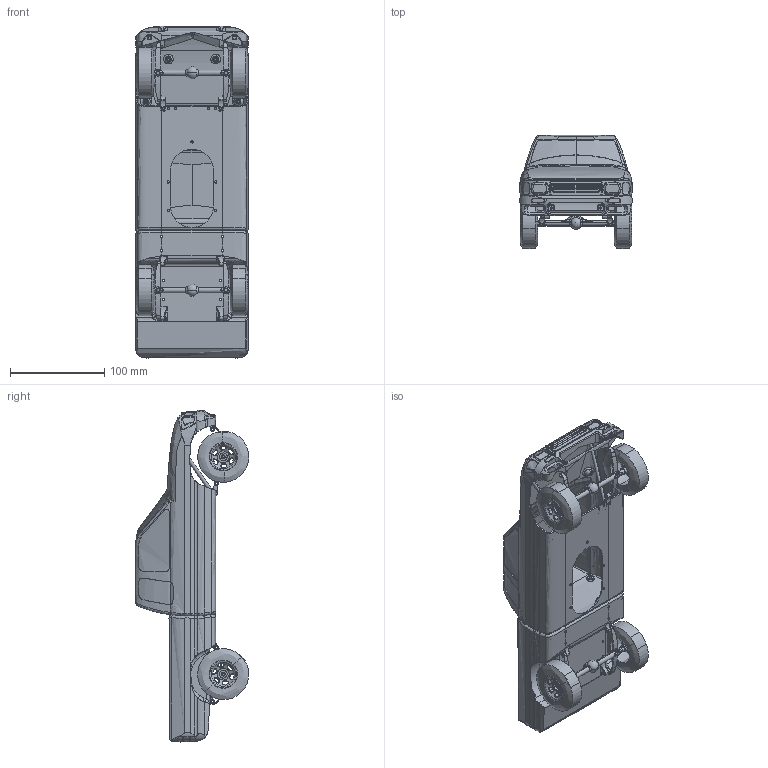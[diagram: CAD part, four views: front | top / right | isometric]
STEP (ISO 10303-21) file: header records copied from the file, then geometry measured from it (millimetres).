
FILE_DESCRIPTION (( 'STEP AP214' ), '1' );
FILE_NAME ('Truck Assem.STEP', '2024-10-15T23:25:04', ( '' ), ( '' ), 'SwSTEP 2.0', 'SolidWorks 2024', '' );
FILE_SCHEMA (( 'AUTOMOTIVE_DESIGN' ));
Length unit declared in the file: millimetre
Products named in the file (6): Rear Leaf; Truck Assem; Truch Extrude INDEP; Rear Axle; Wheel; MirrorRear Leaf
Assembly tree (11 placements, depth 2):
  Truck Assem
    Wheel  x4
    Rear Axle  x2
    Rear Leaf  x2
    MirrorRear Leaf  x2
    Truch Extrude INDEP
Bounding box: 118.93 x 120.17 x 351.37 mm (x, y, z)
Volume: 125213.5 mm3; surface area: 275832 mm2
Topology: 10 solids, 19 shells, 2391 faces, 6337 edges, 3939 vertices
Faces by surface type: bspline 898, cylinder 773, plane 464, cone 166, torus 82, sphere 8
Entity records: 146693 total; most frequent: CARTESIAN_POINT 91632, ORIENTED_EDGE 9507, DIRECTION 5722, EDGE_CURVE 4769, VERTEX_POINT 3008, AXIS2_PLACEMENT_3D 2097, B_SPLINE_CURVE_WITH_KNOTS 2091, EDGE_LOOP 1924
